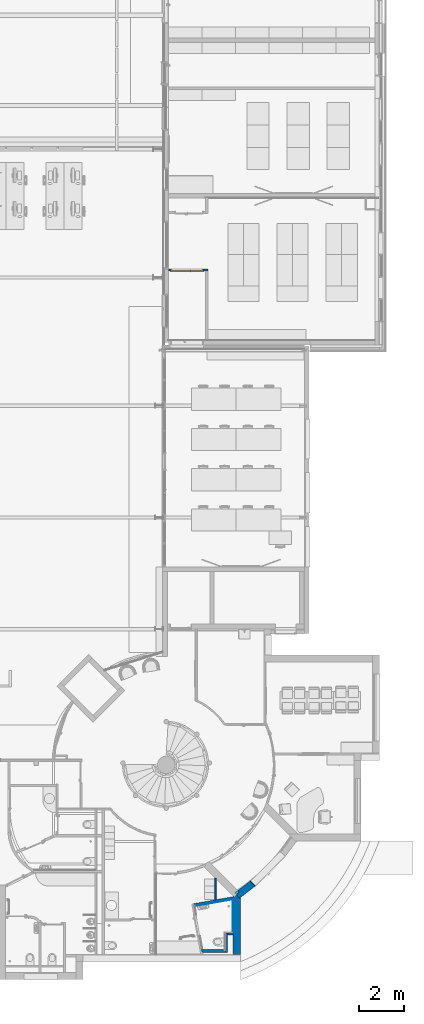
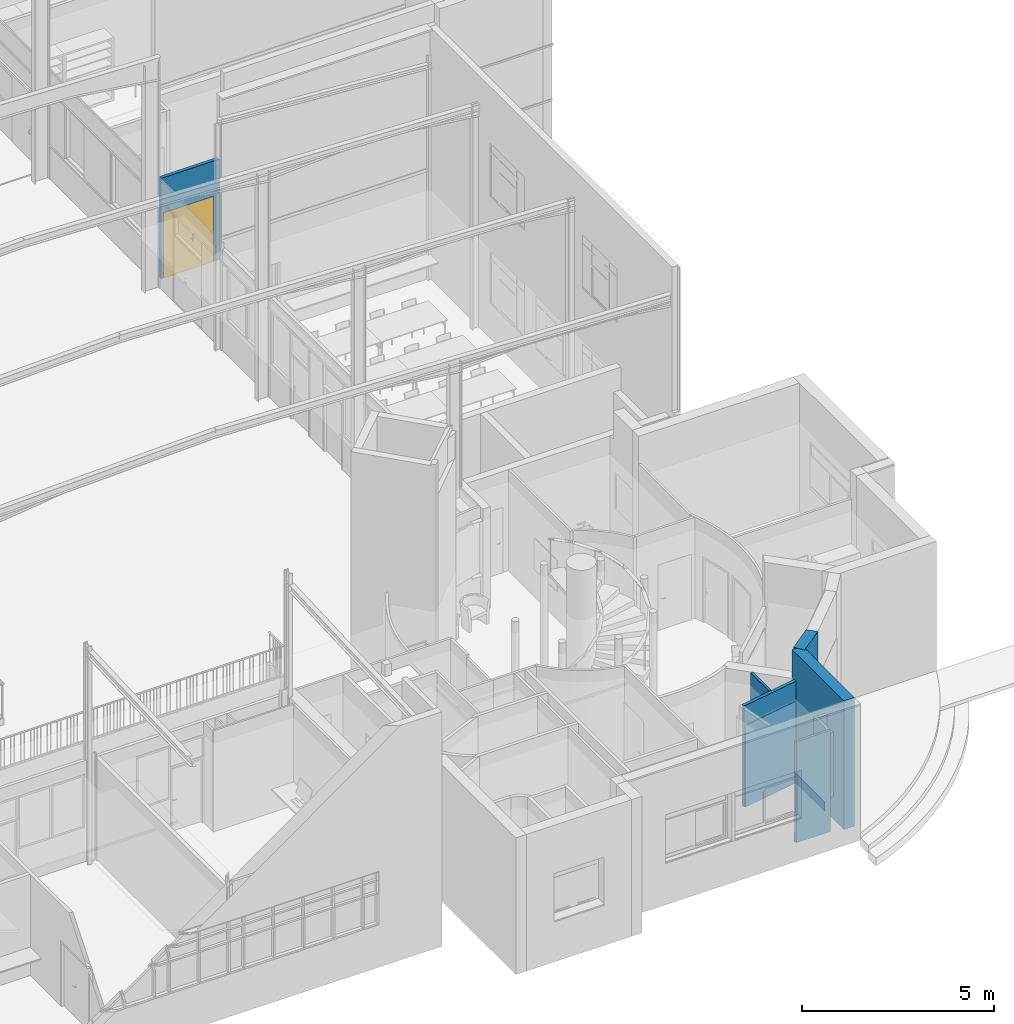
# One storey, part 54 of 137: 11 walls, 1 door, 3 openings.
"""IFC2X3 building model written with IfcOpenShell, lengths in centimetres."""

import ifcopenshell
import ifcopenshell.guid

model = None  # the IFC model being written
_history = None  # IfcOwnerHistory: only IFC2X3 demands one
_inside = {}  # id of a spatial element -> (the spatial element, [elements in it])
_under = {}  # id of a project, library or spatial element -> (it, [spatial elements below it])
_declared = {}  # id of a project -> (the project, [libraries it declares])
_typed = {}  # id of a type object -> (the type object, [elements of that type])
_made_of = {}  # id of a material, layer set ... -> (it, [elements and type objects made of it])


def new_model(schema):
    """Start an empty IFC model of exactly this schema.

    Asked for "IFC4X3", IfcOpenShell would pick the latest addendum, in which some entities
    have other attributes; the version numbers below select the first issue.
    IFC2X3 requires an IfcOwnerHistory on every rooted entity: one is made here for all.
    """
    global model, _history
    if schema == "IFC4X3":
        model = ifcopenshell.file(schema_version=(4, 3, 0, 0))
    else:
        model = ifcopenshell.file(schema=schema)
    _inside.clear()
    _under.clear()
    _declared.clear()
    _typed.clear()
    _made_of.clear()
    _history = None
    if model.schema == "IFC2X3":
        org = make("IfcOrganization", Name="unknown")
        user = make(
            "IfcPersonAndOrganization",
            ThePerson=make("IfcPerson", FamilyName="unknown"),
            TheOrganization=org,
        )
        app = make(
            "IfcApplication",
            ApplicationDeveloper=org,
            Version="unknown",
            ApplicationFullName="unknown",
            ApplicationIdentifier="unknown",
        )
        _history = make(
            "IfcOwnerHistory",
            OwningUser=user,
            OwningApplication=app,
            ChangeAction="ADDED",
            CreationDate=0,
        )
    return model


def make(cls, **values):
    """One entity of the class cls with the attributes given. An attribute that is None is left unset."""
    return model.create_entity(
        cls, **{name: value for name, value in values.items() if value is not None}
    )


def entity(cls, *values):
    """Any entity or typed value of the class cls, its attributes in the order of the schema. None: left unset."""
    e = model.create_entity(cls)
    for i, value in enumerate(values):
        if value is not None:
            e[i] = value
    return e


def rooted(cls, **values):
    """An entity with a GlobalId (a new one), such as an element, a storey or a relation."""
    return make(cls, GlobalId=ifcopenshell.guid.new(), OwnerHistory=_history, **values)


def si_unit(unit_type, name, prefix=None):
    """IfcSIUnit, for example si_unit("LENGTHUNIT", "METRE", prefix="MILLI")."""
    return make("IfcSIUnit", UnitType=unit_type, Prefix=prefix, Name=name)


def converted_unit(unit_type, name, factor, base, dimensions=None, offset=None):
    """IfcConversionBasedUnit, such as the inch: factor (a typed value) times the base unit."""
    return make(
        "IfcConversionBasedUnit"
        if offset is None
        else "IfcConversionBasedUnitWithOffset",
        ConversionOffset=offset,
        Dimensions=None
        if dimensions is None
        else entity("IfcDimensionalExponents", *dimensions),
        UnitType=unit_type,
        Name=name,
        ConversionFactor=make(
            "IfcMeasureWithUnit", ValueComponent=factor, UnitComponent=base
        ),
    )


def derived_unit(unit_type, elements):
    """IfcDerivedUnit: a product of units, each with its exponent."""
    return make(
        "IfcDerivedUnit",
        Elements=[
            make("IfcDerivedUnitElement", Unit=unit, Exponent=power)
            for unit, power in elements
        ],
        UnitType=unit_type,
    )


def assignment(units):
    """IfcUnitAssignment: the units of a project."""
    return None if units is None else make("IfcUnitAssignment", Units=units)


def point(xyz):
    """IfcCartesianPoint."""
    return None if xyz is None else make("IfcCartesianPoint", Coordinates=xyz)


def direction(xyz):
    """IfcDirection."""
    return None if xyz is None else make("IfcDirection", DirectionRatios=xyz)


def frame(location, z_axis=None, x_axis=None):
    """IfcAxis2Placement3D, a coordinate frame: its origin and axes. An axis left out is left unset."""
    return make(
        "IfcAxis2Placement3D",
        Location=point(location),
        Axis=direction(z_axis),
        RefDirection=direction(x_axis),
    )


def frame_2d(location, x_axis=None):
    """IfcAxis2Placement2D, a coordinate frame in the plane: its origin and x axis."""
    return make(
        "IfcAxis2Placement2D", Location=point(location), RefDirection=direction(x_axis)
    )


def origin():
    """The frame at (0, 0, 0) with its axes left unset."""
    return frame((0.0, 0.0, 0.0))


def place(relative_to, where):
    """IfcLocalPlacement: puts the frame where relative to a parent placement (None: the world)."""
    return make(
        "IfcLocalPlacement", PlacementRelTo=relative_to, RelativePlacement=where
    )


def context(
    kind, dimensions, precision=None, world=None, true_north=None, identifier=None
):
    """IfcGeometricRepresentationContext, for example the 3D "Model" context."""
    return make(
        "IfcGeometricRepresentationContext",
        ContextIdentifier=identifier,
        ContextType=kind,
        CoordinateSpaceDimension=dimensions,
        Precision=precision,
        WorldCoordinateSystem=world,
        TrueNorth=true_north,
    )


def subcontext(parent, identifier, kind, view, scale=None):
    """IfcGeometricRepresentationSubContext, for example "Body" below "Model"."""
    return make(
        "IfcGeometricRepresentationSubContext",
        ContextIdentifier=identifier,
        ContextType=kind,
        ParentContext=parent,
        TargetScale=scale,
        TargetView=view,
    )


def project(units=None, contexts=None):
    """IfcProject with its units and contexts."""
    return rooted(
        "IfcProject",
        Name="project",
        RepresentationContexts=contexts,
        UnitsInContext=assignment(units),
    )


def spatial(cls, under=None, at=None, **own):
    """A site, building, storey or space (cls), placed at a placement, below another one or the project."""
    s = rooted(cls, ObjectPlacement=at, **own)
    if under is not None:
        _under.setdefault(under.id(), (under, []))[1].append(s)
    return s


def polyline(points):
    """IfcPolyline through the points."""
    return make("IfcPolyline", Points=[point(p) for p in points])


def profile(cls, at=None, kind="AREA", **sizes):
    """A parametric profile (cls). Its sizes go by their IFC names, for example OverallWidth=200.0."""
    return make(cls, ProfileType=kind, Position=at, **sizes)


def rectangle(**sizes):
    """IfcRectangleProfileDef."""
    return profile("IfcRectangleProfileDef", **sizes)


def outline(outer, holes=None, kind="AREA"):
    """IfcArbitraryClosedProfileDef: a profile drawn as a closed curve; with holes, ...WithVoids."""
    if holes is None:
        return make("IfcArbitraryClosedProfileDef", ProfileType=kind, OuterCurve=outer)
    return make(
        "IfcArbitraryProfileDefWithVoids",
        ProfileType=kind,
        OuterCurve=outer,
        InnerCurves=holes,
    )


def extrude(swept, where, along, depth):
    """IfcExtrudedAreaSolid: the profile swept, set in the frame where, extruded along a direction by depth."""
    return make(
        "IfcExtrudedAreaSolid",
        SweptArea=swept,
        Position=where,
        ExtrudedDirection=direction(along),
        Depth=depth,
    )


def clip(a, b, op="DIFFERENCE"):
    """IfcBooleanClippingResult: the solid a cut by the half space b."""
    return make(
        "IfcBooleanClippingResult", Operator=op, FirstOperand=a, SecondOperand=b
    )


def bounded_halfspace(plane, agree, where, boundary):
    """IfcPolygonalBoundedHalfSpace: a half space limited to a polygon's prism."""
    return make(
        "IfcPolygonalBoundedHalfSpace",
        BaseSurface=make("IfcPlane", Position=plane),
        AgreementFlag=agree,
        Position=where,
        PolygonalBoundary=boundary,
    )


def faces_of(points, faces, orient=None, outer=None):
    """IfcFace entities. A face is a list of loops; a loop is a list of indices into points, from 0.

    orient and outer hold one flag for each loop. By default every Orientation is true, the
    first loop of a face is its IfcFaceOuterBound and the others are IfcFaceBound.
    """
    made = []
    for i, loops in enumerate(faces):
        bounds = []
        for j, loop in enumerate(loops):
            is_outer = j == 0 if outer is None else outer[i][j]
            bounds.append(
                make(
                    "IfcFaceOuterBound" if is_outer else "IfcFaceBound",
                    Bound=make("IfcPolyLoop", Polygon=[points[k] for k in loop]),
                    Orientation=True if orient is None else orient[i][j],
                )
            )
        made.append(make("IfcFace", Bounds=bounds))
    return made


def faceted_brep(points, faces, orient=None, outer=None, voids=None):
    """IfcFacetedBrep: a solid bounded by flat faces; with voids (closed shells), ...WithVoids."""
    shared = [point(p) for p in points]
    hull = make("IfcClosedShell", CfsFaces=faces_of(shared, faces, orient, outer))
    if voids is None:
        return make("IfcFacetedBrep", Outer=hull)
    return make(
        "IfcFacetedBrepWithVoids",
        Outer=hull,
        Voids=[
            make(cls, CfsFaces=faces_of(shared, fs, o, b)) for cls, fs, o, b in voids
        ],
    )


def shape(context_of_items, identifier, shape_type, items):
    """IfcShapeRepresentation: the items that make up one representation, for example the "Body"."""
    return make(
        "IfcShapeRepresentation",
        ContextOfItems=context_of_items,
        RepresentationIdentifier=identifier,
        RepresentationType=shape_type,
        Items=items,
    )


def source(mapping_origin, context_of_items, identifier, shape_type, items):
    """IfcRepresentationMap: a shape defined once, which mapped items show again and again."""
    return make(
        "IfcRepresentationMap",
        MappingOrigin=mapping_origin,
        MappedRepresentation=shape(context_of_items, identifier, shape_type, items),
    )


def transform(
    local_origin,
    x_axis=None,
    y_axis=None,
    z_axis=None,
    scale=None,
    scale2=None,
    scale3=None,
    uniform=True,
):
    """IfcCartesianTransformationOperator3D, or its non-uniform kind. x_axis, y_axis, z_axis: its Axis1, 2, 3."""
    if uniform:
        return make(
            "IfcCartesianTransformationOperator3D",
            Axis1=direction(x_axis),
            Axis2=direction(y_axis),
            LocalOrigin=point(local_origin),
            Scale=scale,
            Axis3=direction(z_axis),
        )
    return make(
        "IfcCartesianTransformationOperator3DnonUniform",
        Axis1=direction(x_axis),
        Axis2=direction(y_axis),
        LocalOrigin=point(local_origin),
        Scale=scale,
        Axis3=direction(z_axis),
        Scale2=scale2,
        Scale3=scale3,
    )


def mapped(mapping_source, mapping_target):
    """IfcMappedItem: shows the shape of a source again, moved by a transform."""
    return make(
        "IfcMappedItem", MappingSource=mapping_source, MappingTarget=mapping_target
    )


def material(Name=None, Category=None):
    """IfcMaterial."""
    return make("IfcMaterial", Name=Name, Category=Category)


def material_list(materials):
    """IfcMaterialList."""
    return make("IfcMaterialList", Materials=materials)


def layer(
    of_material, thickness, ventilated=None, Name=None, Category=None, Priority=None
):
    """IfcMaterialLayer: one layer of a wall or slab, of a material (None: an air gap)."""
    return make(
        "IfcMaterialLayer",
        Material=of_material,
        LayerThickness=thickness,
        IsVentilated=ventilated,
        Name=Name,
        Category=Category,
        Priority=Priority,
    )


def layer_set(layers, Name=None):
    """IfcMaterialLayerSet."""
    return make("IfcMaterialLayerSet", MaterialLayers=layers, LayerSetName=Name)


def layer_usage(for_layer_set, set_direction, sense, offset, extent=None):
    """IfcMaterialLayerSetUsage: how a layer set lies in its element."""
    return make(
        "IfcMaterialLayerSetUsage",
        ForLayerSet=for_layer_set,
        LayerSetDirection=set_direction,
        DirectionSense=sense,
        OffsetFromReferenceLine=offset,
        ReferenceExtent=extent,
    )


def made_of(thing, what):
    """Note that an element or type object is made of a material, layer set ...; save() writes the relation."""
    if what is not None:
        _made_of.setdefault(what.id(), (what, []))[1].append(thing)
    return thing


def type_object(cls, material=None, **own):
    """A type object (cls), such as IfcWallType, which elements share."""
    return made_of(rooted(cls, **own), material)


def type_shapes(of_type, sources):
    """Give a type object the sources (RepresentationMaps) that its elements show as mapped items."""
    of_type.RepresentationMaps = sources


def element(
    cls,
    number,
    at=None,
    inside=None,
    cuts=None,
    type_object=None,
    material=None,
    context=None,
    identifier="Body",
    shape_type=None,
    held_by="IfcProductDefinitionShape",
    body=None,
    shapes=None,
    **own,
):
    """One element of the class cls, such as IfcWall. Its Tag is "e" and its number.

    at: its placement. inside: the storey or other place that contains it. cuts: it is an
    opening in that element (IfcRelVoidsElement). A single representation is given by context,
    identifier, shape_type and body (its items); several are given by shapes. held_by: the class
    of the entity that holds the representations. save() writes the other relations.
    """
    e = rooted(cls, Tag="e%d" % number, ObjectPlacement=at, **own)
    if body is not None:
        shapes = [shape(context, identifier, shape_type, body)]
    if shapes is not None:
        e.Representation = make(held_by, Representations=shapes)
    if inside is not None:
        _inside.setdefault(inside.id(), (inside, []))[1].append(e)
    if cuts is not None:
        rooted(
            "IfcRelVoidsElement", RelatingBuildingElement=cuts, RelatedOpeningElement=e
        )
    if type_object is not None:
        _typed.setdefault(type_object.id(), (type_object, []))[1].append(e)
    return made_of(e, material)


def fill(opening, filler):
    """IfcRelFillsElement: the door or window that sits in an opening."""
    return rooted(
        "IfcRelFillsElement",
        RelatingOpeningElement=opening,
        RelatedBuildingElement=filler,
    )


def aggregate(whole, parts):
    """IfcRelAggregates: a whole, such as a stair, and the parts it consists of."""
    return rooted("IfcRelAggregates", RelatingObject=whole, RelatedObjects=parts)


def save(model, path):
    """Write the relations noted so far, then the file.

    IfcRelAggregates (storeys below a building ...), IfcRelContainedInSpatialStructure (elements
    in a storey), IfcRelDefinesByType, IfcRelAssociatesMaterial and IfcRelDeclares: one each for
    every whole, place, type object, material and project.
    """
    for whole, parts in _under.values():
        aggregate(whole, parts)
    for where, things in _inside.values():
        rooted(
            "IfcRelContainedInSpatialStructure",
            RelatedElements=things,
            RelatingStructure=where,
        )
    for kind, things in _typed.values():
        rooted("IfcRelDefinesByType", RelatedObjects=things, RelatingType=kind)
    for what, things in _made_of.values():
        rooted("IfcRelAssociatesMaterial", RelatedObjects=things, RelatingMaterial=what)
    for by, libraries in _declared.values():
        rooted("IfcRelDeclares", RelatingContext=by, RelatedDefinitions=libraries)
    model.write(path)


model = new_model("IFC2X3")

# Units and contexts
model_context = context("Model", 3, precision=0.001, world=origin(), true_north=direction((6.12303176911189e-17, 1.0)))
body_context = subcontext(model_context, "Body", "Model", "MODEL_VIEW")
ifc_project = project(units=[si_unit("LENGTHUNIT", "METRE", prefix="CENTI"), si_unit("AREAUNIT", "SQUARE_METRE"), si_unit("VOLUMEUNIT", "CUBIC_METRE"), converted_unit("PLANEANGLEUNIT", "DEGREE", entity("IfcRatioMeasure", 0.0174532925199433), si_unit("PLANEANGLEUNIT", "RADIAN"), dimensions=[0, 0, 0, 0, 0, 0, 0]), si_unit("MASSUNIT", "GRAM", prefix="KILO"), si_unit("TIMEUNIT", "SECOND"), si_unit("FREQUENCYUNIT", "HERTZ"), si_unit("THERMODYNAMICTEMPERATUREUNIT", "DEGREE_CELSIUS"), derived_unit("THERMALTRANSMITTANCEUNIT", [(si_unit("MASSUNIT", "GRAM", prefix="KILO"), 1), (si_unit("THERMODYNAMICTEMPERATUREUNIT", "KELVIN"), -1), (si_unit("TIMEUNIT", "SECOND"), -3)]), derived_unit("VOLUMETRICFLOWRATEUNIT", [(si_unit("LENGTHUNIT", "METRE"), 3), (si_unit("TIMEUNIT", "SECOND"), -1)]), si_unit("ELECTRICCURRENTUNIT", "AMPERE"), si_unit("ELECTRICVOLTAGEUNIT", "VOLT"), si_unit("POWERUNIT", "WATT"), si_unit("FORCEUNIT", "NEWTON", prefix="KILO"), si_unit("ILLUMINANCEUNIT", "LUX"), si_unit("LUMINOUSFLUXUNIT", "LUMEN"), si_unit("LUMINOUSINTENSITYUNIT", "CANDELA"), derived_unit("USERDEFINED", [(si_unit("MASSUNIT", "GRAM", prefix="KILO"), -1), (si_unit("LENGTHUNIT", "METRE"), -2), (si_unit("TIMEUNIT", "SECOND"), 3), (si_unit("LUMINOUSFLUXUNIT", "LUMEN"), 1)]), derived_unit("LINEARVELOCITYUNIT", [(si_unit("LENGTHUNIT", "METRE"), 1), (si_unit("TIMEUNIT", "SECOND"), -1)]), si_unit("PRESSUREUNIT", "PASCAL"), derived_unit("USERDEFINED", [(si_unit("LENGTHUNIT", "METRE"), -2), (si_unit("MASSUNIT", "GRAM", prefix="KILO"), 1), (si_unit("TIMEUNIT", "SECOND"), -2)])], contexts=[model_context])

# Site, building, storey
site_placement = place(None, frame((8.62739174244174, -249.285249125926, 0.0)))
site = spatial("IfcSite", under=ifc_project, at=site_placement, Name="Default", CompositionType="ELEMENT")
building_placement = place(site_placement, origin())
building = spatial("IfcBuilding", under=site, at=building_placement, CompositionType="ELEMENT")
storey_placement = place(building_placement, origin())
storey = spatial("IfcBuildingStorey", under=building, at=storey_placement, Name="RDC", CompositionType="ELEMENT", Elevation=-8.82465566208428e-11)

# Wall
ifc_material_1 = material(Name="Maçonnerie - Enduit")
ifc_layer_1 = layer(ifc_material_1, 1.0)
ifc_material_2 = material(Name="Maçonnerie")
ifc_layer_2 = layer(ifc_material_2, 20.0)
ifc_material_3 = material(Name="Laine minérale")
ifc_layer_3 = layer(ifc_material_3, 10.0)
ifc_material_4 = material(Name="Plâtre")
ifc_layer_4 = layer(ifc_material_4, 1.0)
ifc_layer_set_1 = layer_set([ifc_layer_1, ifc_layer_2, ifc_layer_3, ifc_layer_4], Name="Mur de base:END 1 + PAR 20 + ISO 10 + PLA 1")
ifc_layer_usage_1 = layer_usage(ifc_layer_set_1, "AXIS2", "POSITIVE", -16.0)
wall_type_1 = type_object("IfcWallType", Name="Mur de base:END 1 + PAR 20 + ISO 10 + PLA 1", PredefinedType="STANDARD", material=ifc_layer_set_1)
wall_1_placement = place(storey_placement, frame((3359.90482781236, -96.0197919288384, 0.0), z_axis=(0.0, 0.0, 1.0), x_axis=(0.0, 1.0, 0.0)))
element("IfcWallStandardCase", 1, at=wall_1_placement, inside=storey, type_object=wall_type_1, material=ifc_layer_usage_1, Name="Mur de base:END 1 + PAR 20 + ISO 10 + PLA 1", ObjectType="Mur de base:END 1 + PAR 20 + ISO 10 + PLA 1", context=body_context, shape_type="Clipping", body=[
    clip(clip(extrude(rectangle(XDim=269.283305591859, YDim=31.9999999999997, at=frame_2d((134.64165279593, 2.22044604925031e-14), x_axis=(-1.0, 0.0))), origin(), (0.0, 0.0, 1.0), 410.000000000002), bounded_halfspace(frame((252.103562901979, -11.7063262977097, 0.0), z_axis=(-0.792658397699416, -0.609666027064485, 0.0), x_axis=(0.609666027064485, -0.792658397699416, 0.0)), True, frame((252.103562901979, -11.7063262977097, 0.0), z_axis=(-0.792658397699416, -0.609666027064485, 0.0), x_axis=(0.609666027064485, -0.792658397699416, 0.0)), polyline([(0.0, 0.0), (5.41680213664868, 0.0), (5.41680213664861, 410.0), (0.0, 410.0), (0.0, 0.0)]))), bounded_halfspace(frame((252.103562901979, -11.7063262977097, 410.0), z_axis=(-0.609666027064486, 0.792658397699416, 0.0), x_axis=(0.792658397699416, 0.609666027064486, 0.0)), True, frame((252.103562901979, -11.7063262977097, 410.0), z_axis=(-0.609666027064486, 0.792658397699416, 0.0), x_axis=(0.792658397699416, 0.609666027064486, 0.0)), polyline([(0.0, 0.0), (21.6735768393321, 0.0), (21.6735768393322, 410.0), (0.0, 410.0), (0.0, 0.0)]))),
])

# Wall, openings
ifc_layer_usage_2 = layer_usage(ifc_layer_set_1, "AXIS2", "POSITIVE", -16.0)
wall_2_placement = place(storey_placement, frame((3361.85649767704, 168.766305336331, -25.0), z_axis=(0.0, 0.0, 1.0), x_axis=(0.792658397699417, 0.609666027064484, 0.0)))
wall_2 = element("IfcWallStandardCase", 2, at=wall_2_placement, inside=storey, type_object=wall_type_1, material=ifc_layer_usage_2, Name="Mur de base:END 1 + PAR 20 + ISO 10 + PLA 1", ObjectType="Mur de base:END 1 + PAR 20 + ISO 10 + PLA 1", context=body_context, shape_type="SweptSolid", body=[
    extrude(outline(polyline([(0.0, -16.0), (5.41680213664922, -16.0), (91.0686842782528, -16.0), (91.0572442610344, -15.8239202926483), (87.1640460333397, 13.9223927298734), (89.108124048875, 14.1760797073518), (88.9896227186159, 16.0), (0.0, 16.0), (0.0, 5.67357683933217), (0.0, -16.0)])), origin(), (0.0, 0.0, 1.0), 435.000000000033),
])
opening_1_placement = place(storey_placement, frame((3361.85649767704, 168.766305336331, -25.0), z_axis=(0.0, 0.0, 1.0), x_axis=(0.792658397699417, 0.609666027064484, 0.0)))
element("IfcOpeningElement", 3, at=opening_1_placement, cuts=wall_2, Name="Mur de base:END 1 + PAR 20 + ISO 10 + PLA 1:1", ObjectType="Opening", context=body_context, shape_type="SweptSolid", body=[
    extrude(outline(polyline([(-5.13957321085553, -8.23364060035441), (4.11327536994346, -8.23364060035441), (6.16587105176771, 7.49600456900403), (-5.13957321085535, 8.97127663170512), (-5.13957321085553, -8.23364060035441)])), frame((8.23082027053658, 10.8559113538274, 25.0), z_axis=(0.0, 0.0, 1.0), x_axis=(-0.129395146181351, 0.991593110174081, 0.0)), (0.0, 0.0, 1.0), 322.000000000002),
])
opening_2_placement = place(wall_2_placement, origin())
element("IfcOpeningElement", 4, at=opening_2_placement, cuts=wall_2, Name="Mur de base:END 1 + PAR 20 + ISO 10 + PLA 1", ObjectType="Opening", context=body_context, shape_type="SweptSolid", body=[
    extrude(rectangle(XDim=263.0, YDim=188.999999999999, at=frame_2d((1.4210854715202e-14, -2.34479102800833e-13), x_axis=(1.0, 0.0))), frame((181.676490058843, -4.17638993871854, 156.499999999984), z_axis=(-0.129395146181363, 0.991593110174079, 0.0), x_axis=(0.0, 0.0, 1.0)), (0.0, 0.0, 1.0), 31.9999999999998),
])

# Walls
ifc_layer_5 = layer(ifc_material_4, 10.0)
ifc_layer_set_2 = layer_set([ifc_layer_5], Name="Mur de base:PLA 10")
ifc_layer_usage_3 = layer_usage(ifc_layer_set_2, "AXIS2", "NEGATIVE", 5.0)
wall_type_2 = type_object("IfcWallType", Name="Mur de base:PLA 10", PredefinedType="STANDARD", material=ifc_layer_set_2)
wall_3_placement = place(storey_placement, frame((3169.18206537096, 127.298434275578, 0.0), z_axis=(0.0, 0.0, 1.0), x_axis=(0.984807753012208, 0.173648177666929, 0.0)))
element("IfcWallStandardCase", 5, at=wall_3_placement, inside=storey, type_object=wall_type_2, material=ifc_layer_usage_3, Name="Mur de base:PLA 10", ObjectType="Mur de base:PLA 10", context=body_context, shape_type="SweptSolid", body=[
    extrude(rectangle(XDim=177.418142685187, YDim=10.0, at=frame_2d((88.7090713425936, -2.53130849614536e-14), x_axis=(-1.0, 0.0))), origin(), (0.0, 0.0, 1.0), 322.000000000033),
])
ifc_layer_usage_4 = layer_usage(ifc_layer_set_2, "AXIS2", "NEGATIVE", 5.0)
wall_4_placement = place(storey_placement, frame((3313.90482781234, -86.0197919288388, 108.0), z_axis=(0.0, 0.0, 1.0), x_axis=(0.0, 1.0, 0.0)))
element("IfcWallStandardCase", 6, at=wall_4_placement, inside=storey, type_object=wall_type_2, material=ifc_layer_usage_4, Name="Mur de base:PLA 10", ObjectType="Mur de base:PLA 10", context=body_context, shape_type="SweptSolid", body=[
    extrude(rectangle(XDim=87.0000000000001, YDim=10.0000000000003, at=frame_2d((43.5000000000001, 0.0), x_axis=(-1.0, 0.0))), origin(), (0.0, 0.0, 1.0), 205.000000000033),
])
ifc_layer_usage_5 = layer_usage(ifc_layer_set_2, "AXIS2", "NEGATIVE", 5.0)
wall_5_placement = place(storey_placement, frame((3318.90482781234, -4.01979192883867, 108.0)))
element("IfcWallStandardCase", 7, at=wall_5_placement, inside=storey, type_object=wall_type_2, material=ifc_layer_usage_5, Name="Mur de base:PLA 10", ObjectType="Mur de base:PLA 10", context=body_context, shape_type="SweptSolid", body=[
    extrude(rectangle(XDim=25.0000000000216, YDim=10.0, at=frame_2d((12.5000000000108, 4.44089209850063e-16), x_axis=(-1.0, 0.0))), origin(), (0.0, 0.0, 1.0), 205.000000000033),
])
ifc_layer_6 = layer(ifc_material_4, 7.0)
ifc_layer_set_3 = layer_set([ifc_layer_6], Name="Mur de base:PLA 7")
ifc_layer_usage_6 = layer_usage(ifc_layer_set_3, "AXIS2", "NEGATIVE", 3.5)
wall_type_3 = type_object("IfcWallType", Name="Mur de base:PLA 7", PredefinedType="STANDARD", material=ifc_layer_set_3)
wall_6_placement = place(storey_placement, frame((3264.07666087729, 246.46426360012, 0.0), z_axis=(0.0, 0.0, 1.0), x_axis=(0.0, -1.0, 0.0)))
element("IfcWallStandardCase", 8, at=wall_6_placement, inside=storey, type_object=wall_type_3, material=ifc_layer_usage_6, Name="Mur de base:PLA 7", ObjectType="Mur de base:PLA 7", context=body_context, shape_type="SweptSolid", body=[
    extrude(outline(polyline([(97.9733631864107, -3.50000000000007), (96.7390743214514, 3.50000000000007), (0.0, 3.50000000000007), (0.0, -3.50000000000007), (97.9733631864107, -3.50000000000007)])), origin(), (0.0, 0.0, 1.0), 322.000000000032),
])
ifc_layer_usage_7 = layer_usage(ifc_layer_set_3, "AXIS2", "NEGATIVE", 3.5)
wall_7_placement = place(storey_placement, frame((3205.56153526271, -82.5197919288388, 0.0)))
element("IfcWallStandardCase", 9, at=wall_7_placement, inside=storey, type_object=wall_type_3, material=ifc_layer_usage_7, Name="Mur de base:PLA 7", ObjectType="Mur de base:PLA 7", context=body_context, shape_type="SweptSolid", body=[
    extrude(outline(polyline([(103.343292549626, -3.5), (103.343292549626, 3.5), (0.0, 3.5), (1.23428886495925, -3.5), (103.343292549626, -3.5)])), origin(), (0.0, 0.0, 1.0), 322.000000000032),
])

# Wall, opening, door
ifc_material_5 = material(Name="Stuc")
ifc_layer_7 = layer(ifc_material_5, 10.0)
ifc_layer_set_4 = layer_set([ifc_layer_7], Name="Mur de base:CIM 10")
ifc_layer_usage_8 = layer_usage(ifc_layer_set_4, "AXIS2", "NEGATIVE", 5.0)
wall_type_4 = type_object("IfcWallType", Name="Mur de base:CIM 10", PredefinedType="STANDARD", material=ifc_layer_set_4)
wall_8_placement = place(storey_placement, frame((3053.90482779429, 2969.9802074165, 0.0)))
wall_8 = element("IfcWallStandardCase", 10, at=wall_8_placement, inside=storey, type_object=wall_type_4, material=ifc_layer_usage_8, Name="Mur de base:CIM 10", ObjectType="Mur de base:CIM 10", context=body_context, shape_type="Clipping", body=[
    clip(extrude(rectangle(XDim=176.000000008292, YDim=10.0000000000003, at=frame_2d((88.0000000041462, 1.19904086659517e-14), x_axis=(-1.0, 0.0))), origin(), (0.0, 0.0, 1.0), 320.000000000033), bounded_halfspace(frame((0.0, -5.0, 320.0), z_axis=(0.0, 0.0, -1.0), x_axis=(0.0, 1.0, 0.0)), True, frame((0.0, -5.0, 320.0)), polyline([(0.0, 0.0), (166.0, 0.0), (176.0, 0.0), (176.0, 10.0), (0.0, 10.0), (0.0, 0.0)]))),
])
opening_3_placement = place(wall_8_placement, frame((157.500000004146, 5.0, 0.0)))
opening_3 = element("IfcOpeningElement", 11, at=opening_3_placement, cuts=wall_8, Name="Tierce(R)_bois_mu:143 x 204 cm:1", ObjectType="Opening", context=body_context, shape_type="SweptSolid", body=[
    extrude(rectangle(XDim=206.999999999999, YDim=149.0, at=frame_2d((103.499999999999, 74.4999999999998), x_axis=(1.0, 0.0))), frame((0.0, 0.0, 0.0), z_axis=(0.0, -1.0, 0.0), x_axis=(0.0, 0.0, 1.0)), (0.0, 0.0, 1.0), 10.0),
])
ifc_material_6 = material(Name="Aluminium-Dorma Metal-Anodized Silver")
ifc_material_7 = material(Name="Porte - Cadre")
ifc_material_8 = material(Name="Porte - Panneau")
ifc_material_list_1 = material_list([ifc_material_6, ifc_material_7, ifc_material_8])
ifc_material_list_2 = material_list([ifc_material_6, ifc_material_7, ifc_material_8])
door_style = type_object("IfcDoorStyle", Name="143 x 204 cm", ConstructionType="NOTDEFINED", OperationType="NOTDEFINED", ParameterTakesPrecedence=False, Sizeable=False, material=ifc_material_list_2)
shared_shape = source(origin(), body_context, "Body", "Brep", [
    faceted_brep([(88.7025298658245, 3.69999999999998, 100.778044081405), (88.2974701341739, 3.69999999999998, 100.778044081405), (87.8999999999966, 3.69999999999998, 100.699999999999), (87.8999999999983, 3.69999999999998, 99.3000000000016), (88.2974701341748, 3.69999999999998, 99.2219559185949), (88.7025298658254, 3.69999999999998, 99.2219559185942), (89.1000000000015, 3.69999999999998, 99.2999999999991), (89.1000000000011, 3.69999999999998, 100.699999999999), (87.8999999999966, 5.94852045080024, 100.699999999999), (87.8999999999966, 5.94852045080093, 99.3000000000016), (88.2974701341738, 6.1131579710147, 100.778044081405), (88.7025298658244, 6.2809392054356, 100.778044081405), (87.0838906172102, 7.89957845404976, 100.778044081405), (86.9161093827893, 7.49451872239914, 100.778044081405), (78.5793122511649, 7.49451872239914, 100.778044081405), (78.411531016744, 7.89957845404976, 100.778044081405), (77.6451046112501, 7.13315204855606, 100.778044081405), (77.9315250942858, 6.84673156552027, 100.778044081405), (89.1000000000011, 6.44557672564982, 100.699999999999), (89.1000000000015, 6.44557672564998, 99.2999999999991), (88.7025298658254, 6.28093920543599, 99.2219559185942), (88.2974701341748, 6.11315797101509, 99.2219559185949), (86.9161093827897, 7.49451872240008, 99.2219559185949), (87.0838906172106, 7.8995784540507, 99.2219559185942), (78.4115310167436, 7.8995784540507, 99.2219559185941), (78.5793122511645, 7.49451872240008, 99.2219559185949), (77.9315250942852, 6.84673156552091, 99.2219559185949), (77.6451046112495, 7.1331520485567, 99.2219559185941), (86.7514718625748, 7.09704858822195, 100.699999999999), (86.7514718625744, 7.09704858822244, 99.3000000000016), (87.2485281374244, 8.29704858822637, 100.699999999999), (87.2485281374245, 8.29704858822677, 99.2999999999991), (82.7477108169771, 7.09704858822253, 100.699999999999), (78.7439497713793, 7.09704858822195, 100.699999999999), (78.7439497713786, 7.09704858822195, 99.3000000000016), (82.7477108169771, 7.09704858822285, 99.3000000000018), (82.7477108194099, 7.71249275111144, 100.787811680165), (82.2399422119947, 8.29704858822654, 100.699999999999), (78.2468934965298, 8.29704858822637, 100.699999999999), (83.2554791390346, 8.29704858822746, 99.2999999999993), (78.2468934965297, 8.29704858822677, 99.2999999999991), (82.7477107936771, 7.71249274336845, 99.2121883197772), (77.3640507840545, 7.41420587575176, 100.699999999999), (77.364050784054, 7.41420587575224, 99.2999999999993), (78.2125789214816, 6.5656777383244, 99.3000000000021), (78.2125789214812, 6.56567773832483, 100.699999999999)], [[[0, 1, 2, 3, 4, 5, 6, 7]], [[8, 9, 3, 2]], [[1, 10, 8, 2]], [[1, 0, 11, 12, 13, 10]], [[14, 15, 16, 17]], [[7, 18, 11, 0]], [[18, 7, 6, 19]], [[6, 5, 20, 19]], [[5, 4, 21, 22, 23, 20]], [[24, 25, 26, 27]], [[4, 3, 9, 21]], [[28, 29, 9, 8]], [[8, 10, 13, 28]], [[18, 30, 12, 11]], [[31, 30, 18, 19]], [[19, 20, 23, 31]], [[21, 9, 29, 22]], [[29, 28, 32, 33, 34, 35]], [[36, 32, 13]], [[37, 38, 15]], [[37, 12, 30]], [[36, 12, 37]], [[14, 32, 36]], [[36, 15, 14]], [[28, 13, 32]], [[32, 14, 33]], [[12, 36, 13]], [[15, 36, 37]], [[30, 31, 39, 40, 38, 37]], [[23, 41, 39]], [[24, 39, 41]], [[39, 31, 23]], [[39, 24, 40]], [[22, 35, 41]], [[41, 23, 22]], [[41, 35, 25]], [[35, 22, 29]], [[34, 25, 35]], [[24, 41, 25]], [[17, 16, 42, 43, 27, 26, 44, 45]], [[45, 44, 34, 33]], [[33, 14, 17, 45]], [[15, 38, 42, 16]], [[43, 42, 38, 40]], [[24, 27, 43, 40]], [[34, 44, 26, 25]]]),
    faceted_brep([(88.2974701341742, -1.30000000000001, 100.778044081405), (88.7025298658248, -1.30000000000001, 100.778044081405), (89.1000000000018, -1.30000000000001, 100.699999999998), (89.1000000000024, -1.30000000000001, 99.2999999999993), (88.7025298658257, -1.30000000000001, 99.2219559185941), (88.297470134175, -1.30000000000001, 99.2219559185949), (87.899999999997, -1.30000000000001, 99.3000000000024), (87.8999999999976, -1.30000000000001, 100.699999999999), (88.7025298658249, -3.90045754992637, 100.778044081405), (89.100000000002, -4.06509507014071, 100.699999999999), (88.2974701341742, -3.73267631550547, 100.778044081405), (86.9298602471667, -5.10028620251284, 100.778044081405), (87.0976414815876, -5.50534593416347, 100.778044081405), (78.4142453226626, -5.50534593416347, 100.778044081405), (78.5820265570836, -5.10028620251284, 100.778044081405), (77.9342394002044, -4.4524990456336, 100.778044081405), (77.6478189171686, -4.73891952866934, 100.778044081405), (87.8999999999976, -3.56803879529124, 100.699999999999), (87.899999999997, -3.56803879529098, 99.3000000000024), (88.297470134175, -3.7326763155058, 99.2219559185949), (88.7025298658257, -3.9004575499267, 99.2219559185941), (87.097641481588, -5.50534593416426, 99.2219559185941), (86.9298602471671, -5.10028620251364, 99.2219559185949), (78.5820265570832, -5.10028620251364, 99.2219559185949), (78.4142453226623, -5.50534593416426, 99.2219559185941), (77.6478189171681, -4.73891952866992, 99.2219559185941), (77.9342394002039, -4.45249904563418, 99.2219559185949), (89.1000000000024, -4.06509507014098, 99.2999999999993), (87.2622790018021, -5.90281606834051, 100.699999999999), (86.7652227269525, -4.70281606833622, 100.699999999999), (86.7652227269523, -4.70281606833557, 99.3000000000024), (87.2622790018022, -5.90281606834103, 99.2999999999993), (82.7559433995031, -5.31828027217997, 100.787811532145), (83.269230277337, -5.90281606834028, 100.699999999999), (78.2496078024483, -5.90281606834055, 100.699999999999), (82.755943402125, -4.70281606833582, 100.699999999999), (78.7466640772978, -4.70281606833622, 100.699999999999), (82.7559436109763, -4.70281606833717, 99.3000000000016), (78.7466640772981, -4.70281606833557, 99.3000000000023), (82.7559434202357, -5.31828027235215, 99.2121884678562), (82.2426572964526, -5.90281606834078, 99.2999999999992), (78.249607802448, -5.90281606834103, 99.2999999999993), (78.2152932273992, -4.17144521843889, 99.3000000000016), (77.366765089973, -5.01997335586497, 99.2999999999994), (77.3667650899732, -5.01997335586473, 100.699999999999), (78.2152932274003, -4.17144521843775, 100.699999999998)], [[[0, 1, 2, 3, 4, 5, 6, 7]], [[2, 1, 8, 9]], [[1, 0, 10, 11, 12, 8]], [[13, 14, 15, 16]], [[0, 7, 17, 10]], [[18, 17, 7, 6]], [[5, 19, 18, 6]], [[5, 4, 20, 21, 22, 19]], [[23, 24, 25, 26]], [[3, 27, 20, 4]], [[9, 27, 3, 2]], [[9, 8, 12, 28]], [[10, 17, 29, 11]], [[30, 29, 17, 18]], [[18, 19, 22, 30]], [[20, 27, 31, 21]], [[28, 31, 27, 9]], [[12, 32, 33]], [[13, 33, 32]], [[33, 28, 12]], [[33, 13, 34]], [[11, 35, 32]], [[32, 12, 11]], [[32, 35, 14]], [[35, 11, 29]], [[36, 14, 35]], [[13, 32, 14]], [[29, 30, 37, 38, 36, 35]], [[39, 37, 22]], [[40, 41, 24]], [[40, 21, 31]], [[39, 21, 40]], [[23, 37, 39]], [[39, 24, 23]], [[30, 22, 37]], [[37, 23, 38]], [[21, 39, 22]], [[24, 39, 40]], [[31, 28, 33, 34, 41, 40]], [[42, 26, 25, 43, 44, 16, 15, 45]], [[13, 16, 44, 34]], [[36, 45, 15, 14]], [[42, 45, 36, 38]], [[38, 23, 26, 42]], [[24, 41, 43, 25]], [[44, 43, 41, 34]]]),
    faceted_brep([(88.4999999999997, 3.19999999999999, 86.4641016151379), (89.5352761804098, 3.19999999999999, 86.6003983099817), (90.4999999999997, 3.19999999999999, 87.0), (90.4999999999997, 3.19999999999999, 108.0), (89.5352761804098, 3.19999999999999, 108.399601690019), (88.4999999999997, 3.19999999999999, 108.535898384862), (87.4647238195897, 3.19999999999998, 108.399601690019), (86.4999999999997, 3.19999999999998, 108.0), (86.4999999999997, 3.19999999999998, 87.0), (87.4647238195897, 3.19999999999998, 86.6003983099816), (88.4999999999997, 3.69999999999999, 108.535898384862), (89.5352761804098, 3.69999999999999, 108.399601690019), (90.4999999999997, 3.69999999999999, 108.0), (90.4999999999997, 3.69999999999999, 87.0), (89.5352761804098, 3.69999999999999, 86.6003983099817), (88.4999999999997, 3.69999999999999, 86.4641016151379), (87.4647238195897, 3.69999999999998, 86.6003983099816), (86.4999999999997, 3.69999999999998, 87.0), (86.4999999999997, 3.69999999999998, 108.0), (87.4647238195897, 3.69999999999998, 108.399601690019)], [[[0, 1, 2, 3, 4, 5, 6, 7, 8, 9]], [[10, 11, 12, 13, 14, 15, 16, 17, 18, 19]], [[6, 19, 18, 7]], [[5, 10, 19, 6]], [[4, 11, 10, 5]], [[4, 3, 12, 11]], [[12, 3, 2, 13]], [[1, 14, 13, 2]], [[0, 15, 14, 1]], [[9, 16, 15, 0]], [[9, 8, 17, 16]], [[17, 8, 7, 18]]]),
    faceted_brep([(88.4999999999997, -1.30000000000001, 86.4641016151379), (89.5352761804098, -1.30000000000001, 86.6003983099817), (90.4999999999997, -1.3, 87.0), (90.4999999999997, -1.3, 108.0), (89.5352761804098, -1.30000000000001, 108.399601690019), (88.4999999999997, -1.30000000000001, 108.535898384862), (87.4647238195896, -1.30000000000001, 108.399601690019), (86.4999999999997, -1.30000000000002, 108.0), (86.4999999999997, -1.30000000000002, 87.0), (87.4647238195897, -1.30000000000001, 86.6003983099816), (90.4999999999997, -0.800000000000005, 108.0), (90.4999999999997, -0.800000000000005, 87.0), (89.5352761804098, -0.800000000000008, 86.6003983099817), (88.4999999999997, -0.800000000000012, 86.4641016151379), (87.4647238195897, -0.800000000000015, 86.6003983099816), (86.4999999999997, -0.800000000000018, 87.0), (86.4999999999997, -0.800000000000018, 108.0), (87.4647238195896, -0.800000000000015, 108.399601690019), (88.4999999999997, -0.800000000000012, 108.535898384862), (89.5352761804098, -0.800000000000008, 108.399601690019)], [[[0, 1, 2, 3, 4, 5, 6, 7, 8, 9]], [[10, 11, 12, 13, 14, 15, 16, 17, 18, 19]], [[1, 12, 11, 2]], [[0, 13, 12, 1]], [[9, 14, 13, 0]], [[9, 8, 15, 14]], [[15, 8, 7, 16]], [[6, 17, 16, 7]], [[5, 18, 17, 6]], [[4, 19, 18, 5]], [[4, 3, 10, 19]], [[10, 3, 2, 11]]]),
    faceted_brep([(0.0, 0.0, 0.0), (0.0, 10.0, 0.0), (-1.0, 10.0, 0.0), (-1.0, 10.8000000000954, 0.0), (4.0, 10.8000000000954, 0.0), (4.0, 3.2, 0.0), (3.0, 3.2, 0.0), (3.0, -0.799999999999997, 0.0), (-1.0, -0.799999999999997, 0.0), (-1.0, 0.0, 0.0), (0.0, 0.0, 207.0), (0.0, 10.0, 207.0), (149.0, 10.0, 207.0), (149.0, 10.0, 0.0), (150.0, 10.0, 0.0), (150.0, 10.0, 208.0), (-1.0, 10.0, 208.0), (-1.0, 10.8000000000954, 208.0), (150.0, 10.8000000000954, 208.0), (150.0, 10.8000000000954, 0.0), (145.0, 10.8000000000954, 0.0), (145.0, 10.8000000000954, 203.0), (4.0, 10.8000000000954, 203.0), (4.0, 3.2, 203.0), (145.0, 3.2, 203.0), (145.0, 3.2, 0.0), (146.0, 3.2, 0.0), (146.0, 3.2, 204.0), (3.0, 3.2, 204.0), (3.0, -0.799999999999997, 204.0), (146.0, -0.799999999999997, 204.0), (146.0, -0.799999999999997, 0.0), (150.0, -0.799999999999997, 0.0), (150.0, -0.799999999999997, 208.0), (-1.0, -0.799999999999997, 208.0), (-1.0, 0.0, 208.0), (150.0, 0.0, 208.0), (150.0, 0.0, 0.0), (149.0, 0.0, 0.0), (149.0, 0.0, 207.0)], [[[0, 1, 2, 3, 4, 5, 6, 7, 8, 9]], [[1, 0, 10, 11]], [[2, 1, 11, 12, 13, 14, 15, 16]], [[3, 2, 16, 17]], [[4, 3, 17, 18, 19, 20, 21, 22]], [[5, 4, 22, 23]], [[6, 5, 23, 24, 25, 26, 27, 28]], [[7, 6, 28, 29]], [[8, 7, 29, 30, 31, 32, 33, 34]], [[9, 8, 34, 35]], [[0, 9, 35, 36, 37, 38, 39, 10]], [[12, 39, 38, 13]], [[38, 37, 32, 31, 26, 25, 20, 19, 14, 13]], [[18, 15, 14, 19]], [[24, 21, 20, 25]], [[30, 27, 26, 31]], [[36, 33, 32, 37]], [[11, 10, 39, 12]], [[17, 16, 15, 18]], [[23, 22, 21, 24]], [[29, 28, 27, 30]], [[35, 34, 33, 36]]]),
    faceted_brep([(146.0, -0.799999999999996, 204.0), (94.0, -0.799999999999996, 204.0), (94.0, -0.799999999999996, 0.0), (146.0, -0.799999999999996, 0.0), (146.0, 3.2, 204.0), (146.0, 3.2, 0.0), (94.0, 3.2, 0.0), (94.0, 3.2, 204.0)], [[[0, 1, 2, 3]], [[4, 5, 6, 7]], [[1, 0, 4, 7]], [[2, 1, 7, 6]], [[3, 2, 6, 5]], [[0, 3, 5, 4]]]),
    faceted_brep([(3.0, -0.799999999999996, 0.0), (94.0, -0.799999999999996, 0.0), (94.0, -0.799999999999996, 204.0), (3.0, -0.799999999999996, 204.0), (3.0, 3.2, 0.0), (3.0, 3.2, 204.0), (94.0, 3.2, 204.0), (94.0, 3.2, 0.0)], [[[0, 1, 2, 3]], [[4, 5, 6, 7]], [[1, 0, 4, 7]], [[2, 1, 7, 6]], [[3, 2, 6, 5]], [[0, 3, 5, 4]]]),
])
type_shapes(door_style, [shared_shape])
door_placement = place(opening_3_placement, frame((-149.0, -10.0, 0.0)))
door = element("IfcDoor", 12, at=door_placement, inside=storey, type_object=door_style, material=ifc_material_list_1, Name="Tierce(R)_bois_mu:143 x 204 cm", ObjectType="143 x 204 cm", OverallHeight=206.999999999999, OverallWidth=148.999999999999, context=body_context, shape_type="MappedRepresentation", body=[
    mapped(shared_shape, transform((0.0, 0.0, 0.0), scale=1.0)),
])
fill(opening_3, door)

# Walls
ifc_material_9 = material(Name="MU_carrelage_mural")
ifc_layer_8 = layer(ifc_material_9, 2.0)
ifc_layer_set_5 = layer_set([ifc_layer_8], Name="Mur de base:CAR 2")
ifc_layer_usage_9 = layer_usage(ifc_layer_set_5, "AXIS2", "NEGATIVE", 1.0)
wall_type_5 = type_object("IfcWallType", Name="Mur de base:CAR 2", PredefinedType="STANDARD", material=ifc_layer_set_5)
wall_9_placement = place(storey_placement, frame((3308.90482781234, -78.0197919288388, 0.0), z_axis=(0.0, 0.0, 1.0), x_axis=(-1.0, 0.0, 0.0)))
element("IfcWallStandardCase", 13, at=wall_9_placement, inside=storey, type_object=wall_type_5, material=ifc_layer_usage_9, Name="Mur de base:CAR 2", ObjectType="Mur de base:CAR 2", context=body_context, shape_type="SweptSolid", body=[
    extrude(outline(polyline([(103.695946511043, -1.0), (103.343292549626, 1.0), (0.0, 1.0), (0.0, -1.0), (2.0, -1.0), (103.695946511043, -1.0)])), origin(), (0.0, 0.0, 1.0), 30.0000000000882),
])
ifc_layer_usage_10 = layer_usage(ifc_layer_set_5, "AXIS2", "NEGATIVE", 1.0)
wall_10_placement = place(storey_placement, frame((3172.19356994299, 121.736884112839, 0.0), z_axis=(0.0, 0.0, 1.0), x_axis=(0.984807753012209, 0.173648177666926, 0.0)))
element("IfcWallStandardCase", 14, at=wall_10_placement, inside=storey, type_object=wall_type_5, material=ifc_layer_usage_10, Name="Mur de base:CAR 2", ObjectType="Mur de base:CAR 2", context=body_context, shape_type="Clipping", body=[
    clip(clip(clip(extrude(rectangle(XDim=172.505654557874, YDim=2.00000000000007, at=frame_2d((86.252827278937, -9.99200722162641e-15), x_axis=(-1.0, 0.0))), origin(), (0.0, 0.0, 1.0), 260.0), bounded_halfspace(frame((0.0, -1.0, 260.0), z_axis=(1.0, 0.0, 0.0), x_axis=(0.0, 1.0, 0.0)), True, frame((0.0, -1.0, 260.0), z_axis=(1.0, 0.0, 0.0), x_axis=(0.0, 1.0, 0.0)), polyline([(0.0, 0.0), (0.0, -260.0), (2.0, -260.0), (2.0, -250.0), (2.0, 0.0), (0.0, 0.0)]))), bounded_halfspace(frame((172.505654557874, 1.0, 30.0), z_axis=(-0.984807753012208, 0.173648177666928, 0.0), x_axis=(-0.173648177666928, -0.984807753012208, 0.0)), True, frame((172.505654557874, 1.0, 30.0), z_axis=(-0.984807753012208, 0.173648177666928, 0.0), x_axis=(-0.173648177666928, -0.984807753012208, 0.0)), polyline([(0.0, 0.0), (0.0, -30.0), (2.0308532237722, -30.0), (2.03085322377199, 0.0), (0.0, 0.0)]))), bounded_halfspace(frame((172.153000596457, -1.0, 30.0), z_axis=(0.0, 0.0, 1.0), x_axis=(0.984807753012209, -0.173648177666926, 0.0)), True, frame((172.153000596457, -1.0, 30.0), z_axis=(0.0, 0.0, 1.0), x_axis=(0.984807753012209, -0.173648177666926, 0.0)), polyline([(0.0, 0.0), (0.347296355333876, 0.0612377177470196), (0.0, 2.03085322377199), (0.0, 0.0)]))),
])
ifc_layer_usage_11 = layer_usage(ifc_layer_set_5, "AXIS2", "NEGATIVE", 1.0)
wall_11_placement = place(storey_placement, frame((3342.90482781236, 153.029638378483, 0.0), z_axis=(0.0, 0.0, 1.0), x_axis=(0.0, -1.0, 0.0)))
element("IfcWallStandardCase", 15, at=wall_11_placement, inside=storey, type_object=wall_type_5, material=ifc_layer_usage_11, Name="Mur de base:CAR 2", ObjectType="Mur de base:CAR 2", context=body_context, shape_type="SweptSolid", body=[
    extrude(outline(polyline([(152.049430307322, -1.0), (152.049430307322, 1.0), (0.0, 1.0), (0.352653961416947, -1.0), (2.38350718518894, -1.0), (150.049430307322, -1.0), (152.049430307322, -1.0)])), origin(), (0.0, 0.0, 1.0), 30.0000000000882),
])

save(model, "model.ifc")
